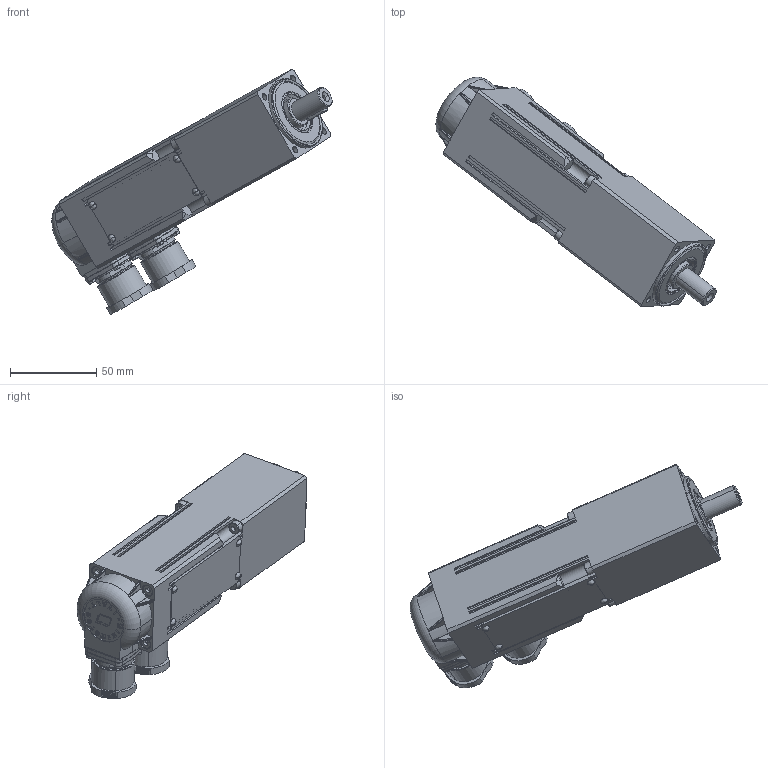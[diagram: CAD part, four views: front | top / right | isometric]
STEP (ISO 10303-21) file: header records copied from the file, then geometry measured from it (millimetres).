
FILE_DESCRIPTION((''),'2;1');
FILE_NAME('C:\Documents and Settings\marco\Desktop\DATI\DATI MARCO\Disegni inventor\STEP\BSE45\BSE45_35RC-2 stadi.stp','2003-08-26T16:13:55',('Administrator'),(''),'Autodesk Inventor 7','Autodesk Inventor 7','');
FILE_SCHEMA(('AUTOMOTIVE_DESIGN { 1 0 10303 214 1 1 1 1 }'));
Length unit declared in the file: millimetre
Products named in the file (1): BSE45_35RC-2 stadi
Bounding box: 162.1 x 132.95 x 141.89 mm (x, y, z)
Volume: 187370.8 mm3; surface area: 102821.4 mm2
Topology: 44 solids, 44 shells, 3349 faces, 9016 edges, 5849 vertices
Faces by surface type: plane 1789, cylinder 804, bspline 391, cone 272, torus 93
Entity records: 115213 total; most frequent: CARTESIAN_POINT 30783, ORIENTED_EDGE 17972, DIRECTION 17489, EDGE_CURVE 8986, AXIS2_PLACEMENT_3D 5918, VERTEX_POINT 5849, VECTOR 5653, LINE 5653
